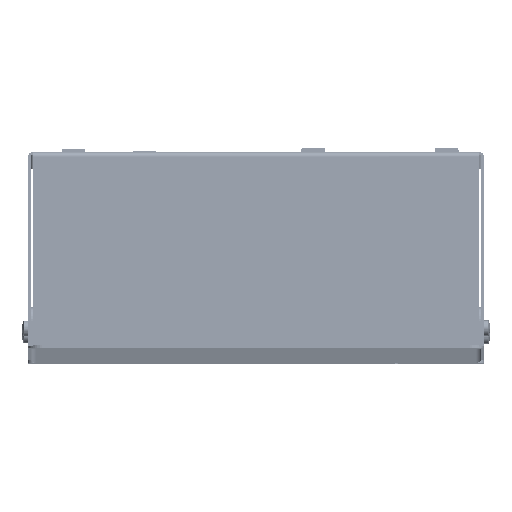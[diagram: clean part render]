
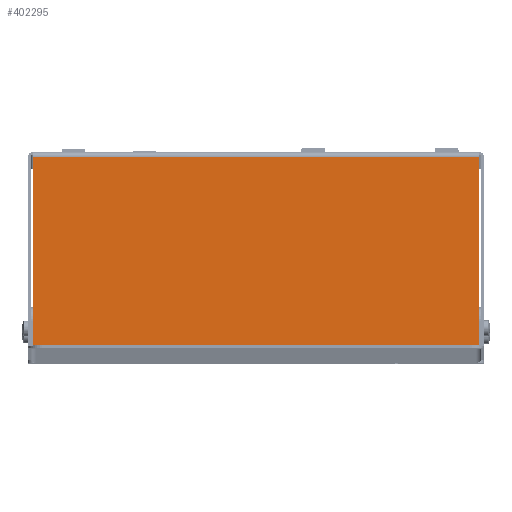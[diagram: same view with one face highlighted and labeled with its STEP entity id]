
A CAD part, left-side view. The second image highlights one B-rep face of the part: STEP entity #402295.
In plain terms, the highlighted planar face has unit normal (-1, 0, 0.019) as drawn and (-1, 0, 0) by its records, which use the part's own axes.
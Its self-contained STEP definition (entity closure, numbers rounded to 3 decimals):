
#41346 = AXIS2_PLACEMENT_3D ( 'NONE', #169873, #456597, #497833 ) ;
#97232 = CARTESIAN_POINT ( 'NONE',  ( -6.56, 135., -3.2 ) ) ;
#105224 = VERTEX_POINT ( 'NONE', #184707 ) ;
#137511 = DIRECTION ( 'NONE',  ( 0., 0., 1. ) ) ;
#143897 = VECTOR ( 'NONE', #489373, 1000. ) ;
#148023 = EDGE_CURVE ( 'NONE', #447149, #362632, #235067, .T. ) ;
#151465 = FACE_OUTER_BOUND ( 'NONE', #340247, .T. ) ;
#160007 = VECTOR ( 'NONE', #137511, 1000. ) ;
#169873 = CARTESIAN_POINT ( 'NONE',  ( -6.56, 135., -1.5 ) ) ;
#174845 = VERTEX_POINT ( 'NONE', #401828 ) ;
#184707 = CARTESIAN_POINT ( 'NONE',  ( -6.56, 133.293, -70.5 ) ) ;
#189748 = ORIENTED_EDGE ( 'NONE', *, *, #270002, .T. ) ;
#192417 = CARTESIAN_POINT ( 'NONE',  ( -6.56, -25.293, -1.5 ) ) ;
#220010 = CARTESIAN_POINT ( 'NONE',  ( -6.56, 133.293, -2.5 ) ) ;
#235067 = LINE ( 'NONE', #192417, #440889 ) ;
#262341 = CARTESIAN_POINT ( 'NONE',  ( -6.56, -25.293, -70.5 ) ) ;
#270002 = EDGE_CURVE ( 'NONE', #105224, #447149, #477120, .T. ) ;
#317935 = ORIENTED_EDGE ( 'NONE', *, *, #339880, .F. ) ;
#329191 = ORIENTED_EDGE ( 'NONE', *, *, #148023, .T. ) ;
#339580 = LINE ( 'NONE', #220010, #160007 ) ;
#339880 = EDGE_CURVE ( 'NONE', #105224, #174845, #339580, .T. ) ;
#340247 = EDGE_LOOP ( 'NONE', ( #189748, #329191, #425286, #317935 ) ) ;
#350259 = CARTESIAN_POINT ( 'NONE',  ( -6.56, -25.293, -3.2 ) ) ;
#358055 = EDGE_CURVE ( 'NONE', #362632, #174845, #518211, .T. ) ;
#362632 = VERTEX_POINT ( 'NONE', #350259 ) ;
#401828 = CARTESIAN_POINT ( 'NONE',  ( -6.56, 133.293, -3.2 ) ) ;
#402295 = ADVANCED_FACE ( 'NONE', ( #151465 ), #530048, .T. ) ;
#405261 = CARTESIAN_POINT ( 'NONE',  ( -6.56, 135., -70.5 ) ) ;
#409175 = VECTOR ( 'NONE', #430503, 1000. ) ;
#425286 = ORIENTED_EDGE ( 'NONE', *, *, #358055, .T. ) ;
#430503 = DIRECTION ( 'NONE',  ( 0., 1., 0. ) ) ;
#436176 = DIRECTION ( 'NONE',  ( 0., 0., 1. ) ) ;
#440889 = VECTOR ( 'NONE', #436176, 1000. ) ;
#447149 = VERTEX_POINT ( 'NONE', #262341 ) ;
#456597 = DIRECTION ( 'NONE',  ( -1., 0., 0. ) ) ;
#477120 = LINE ( 'NONE', #405261, #143897 ) ;
#489373 = DIRECTION ( 'NONE',  ( 0., -1., 0. ) ) ;
#497833 = DIRECTION ( 'NONE',  ( 0., 0., 1. ) ) ;
#518211 = LINE ( 'NONE', #97232, #409175 ) ;
#530048 = PLANE ( 'NONE',  #41346 ) ;
